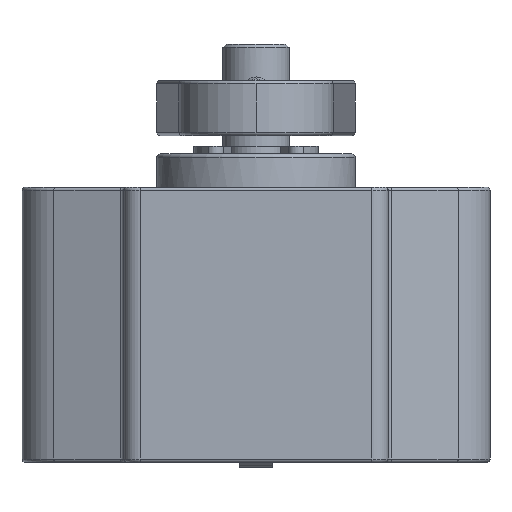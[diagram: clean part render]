
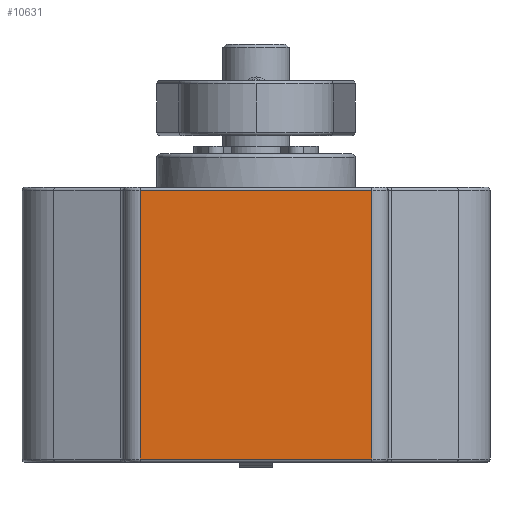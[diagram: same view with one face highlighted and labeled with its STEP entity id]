
A CAD part, front view. The second image highlights one B-rep face of the part: STEP entity #10631.
In plain terms, the highlighted planar face has unit normal (0, -1, 0).
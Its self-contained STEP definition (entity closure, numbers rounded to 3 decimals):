
#517 = LINE ( 'NONE', #15019, #2418 ) ;
#1182 = CARTESIAN_POINT ( 'NONE',  ( -12., -13., -28. ) ) ;
#1317 = DIRECTION ( 'NONE',  ( 0., 0., -1. ) ) ;
#2418 = VECTOR ( 'NONE', #21083, 1000. ) ;
#2916 = CARTESIAN_POINT ( 'NONE',  ( -10.5, -13., -28. ) ) ;
#4565 = VERTEX_POINT ( 'NONE', #9240 ) ;
#4839 = ORIENTED_EDGE ( 'NONE', *, *, #18605, .T. ) ;
#4857 = CARTESIAN_POINT ( 'NONE',  ( -10.5, -13., -3.3 ) ) ;
#5220 = EDGE_CURVE ( 'NONE', #4565, #15594, #13459, .T. ) ;
#5261 = FACE_OUTER_BOUND ( 'NONE', #15096, .T. ) ;
#6088 = VECTOR ( 'NONE', #19924, 1000. ) ;
#7088 = ORIENTED_EDGE ( 'NONE', *, *, #5220, .T. ) ;
#7227 = AXIS2_PLACEMENT_3D ( 'NONE', #1182, #17124, #19641 ) ;
#7748 = EDGE_CURVE ( 'NONE', #20626, #19782, #19253, .T. ) ;
#9240 = CARTESIAN_POINT ( 'NONE',  ( 10.5, -13., -27.7 ) ) ;
#10631 = ADVANCED_FACE ( 'NONE', ( #5261 ), #19373, .T. ) ;
#12140 = DIRECTION ( 'NONE',  ( 1., 0., 0. ) ) ;
#13459 = LINE ( 'NONE', #21513, #6088 ) ;
#14109 = LINE ( 'NONE', #22183, #25752 ) ;
#15019 = CARTESIAN_POINT ( 'NONE',  ( -10.5, -13., -3.3 ) ) ;
#15096 = EDGE_LOOP ( 'NONE', ( #7088, #4839, #24411, #19504 ) ) ;
#15226 = EDGE_CURVE ( 'NONE', #19782, #4565, #14109, .T. ) ;
#15594 = VERTEX_POINT ( 'NONE', #18685 ) ;
#17124 = DIRECTION ( 'NONE',  ( 0., -1., 0. ) ) ;
#17451 = VECTOR ( 'NONE', #1317, 1000. ) ;
#18605 = EDGE_CURVE ( 'NONE', #15594, #20626, #517, .T. ) ;
#18685 = CARTESIAN_POINT ( 'NONE',  ( 10.5, -13., -3.3 ) ) ;
#19253 = LINE ( 'NONE', #2916, #17451 ) ;
#19373 = PLANE ( 'NONE',  #7227 ) ;
#19504 = ORIENTED_EDGE ( 'NONE', *, *, #15226, .T. ) ;
#19641 = DIRECTION ( 'NONE',  ( 0., 0., -1. ) ) ;
#19782 = VERTEX_POINT ( 'NONE', #24295 ) ;
#19924 = DIRECTION ( 'NONE',  ( 0., 0., 1. ) ) ;
#20626 = VERTEX_POINT ( 'NONE', #4857 ) ;
#21083 = DIRECTION ( 'NONE',  ( -1., 0., 0. ) ) ;
#21513 = CARTESIAN_POINT ( 'NONE',  ( 10.5, -13., -28. ) ) ;
#22183 = CARTESIAN_POINT ( 'NONE',  ( 10.5, -13., -27.7 ) ) ;
#24295 = CARTESIAN_POINT ( 'NONE',  ( -10.5, -13., -27.7 ) ) ;
#24411 = ORIENTED_EDGE ( 'NONE', *, *, #7748, .T. ) ;
#25752 = VECTOR ( 'NONE', #12140, 1000. ) ;
